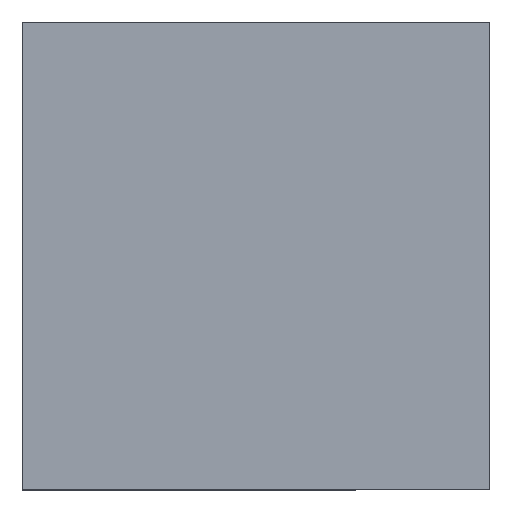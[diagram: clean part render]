
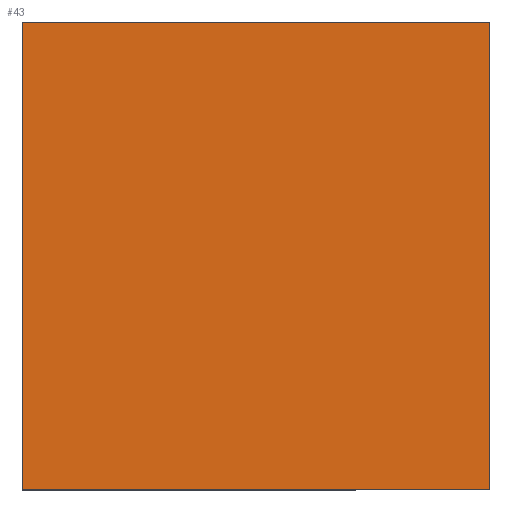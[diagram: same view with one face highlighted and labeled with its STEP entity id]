
A CAD part, top view. The second image highlights one B-rep face of the part: STEP entity #43.
In plain terms, the highlighted planar face has unit normal (0, 0, 1).
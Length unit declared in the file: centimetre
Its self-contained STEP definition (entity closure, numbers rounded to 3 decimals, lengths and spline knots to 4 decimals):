
#1 = VECTOR ( 'NONE', #365, 100. ) ;
#4 = ORIENTED_EDGE ( 'NONE', *, *, #442, .T. ) ;
#20 = DIRECTION ( 'NONE',  ( 1., 0., 0. ) ) ;
#27 = EDGE_CURVE ( 'NONE', #362, #299, #123, .T. ) ;
#43 = ADVANCED_FACE ( 'NONE', ( #262 ), #222, .T. ) ;
#56 = CARTESIAN_POINT ( 'NONE',  ( 0., 0., 1000. ) ) ;
#89 = CARTESIAN_POINT ( 'NONE',  ( 0., 0., 1000. ) ) ;
#100 = VERTEX_POINT ( 'NONE', #89 ) ;
#106 = CARTESIAN_POINT ( 'NONE',  ( 0., 1000., 1000. ) ) ;
#123 = LINE ( 'NONE', #344, #430 ) ;
#140 = VERTEX_POINT ( 'NONE', #285 ) ;
#155 = ORIENTED_EDGE ( 'NONE', *, *, #377, .T. ) ;
#172 = LINE ( 'NONE', #173, #287 ) ;
#173 = CARTESIAN_POINT ( 'NONE',  ( 0., 1000., 1000. ) ) ;
#180 = VECTOR ( 'NONE', #468, 100. ) ;
#222 = PLANE ( 'NONE',  #279 ) ;
#240 = DIRECTION ( 'NONE',  ( -1., 0., 0. ) ) ;
#249 = EDGE_CURVE ( 'NONE', #140, #100, #320, .T. ) ;
#262 = FACE_OUTER_BOUND ( 'NONE', #441, .T. ) ;
#265 = DIRECTION ( 'NONE',  ( 0., 1., 0. ) ) ;
#273 = CARTESIAN_POINT ( 'NONE',  ( 0., 0., 1000. ) ) ;
#279 = AXIS2_PLACEMENT_3D ( 'NONE', #56, #301, #20 ) ;
#285 = CARTESIAN_POINT ( 'NONE',  ( 0., 1000., 1000. ) ) ;
#287 = VECTOR ( 'NONE', #240, 100. ) ;
#299 = VERTEX_POINT ( 'NONE', #470 ) ;
#301 = DIRECTION ( 'NONE',  ( 0., 0., 1. ) ) ;
#313 = LINE ( 'NONE', #273, #180 ) ;
#320 = LINE ( 'NONE', #106, #1 ) ;
#344 = CARTESIAN_POINT ( 'NONE',  ( 1000., 1000., 1000. ) ) ;
#362 = VERTEX_POINT ( 'NONE', #427 ) ;
#365 = DIRECTION ( 'NONE',  ( 0., -1., 0. ) ) ;
#377 = EDGE_CURVE ( 'NONE', #299, #140, #172, .T. ) ;
#398 = ORIENTED_EDGE ( 'NONE', *, *, #27, .T. ) ;
#424 = ORIENTED_EDGE ( 'NONE', *, *, #249, .T. ) ;
#427 = CARTESIAN_POINT ( 'NONE',  ( 1000., 0., 1000. ) ) ;
#430 = VECTOR ( 'NONE', #265, 100. ) ;
#441 = EDGE_LOOP ( 'NONE', ( #424, #4, #398, #155 ) ) ;
#442 = EDGE_CURVE ( 'NONE', #100, #362, #313, .T. ) ;
#468 = DIRECTION ( 'NONE',  ( 1., 0., 0. ) ) ;
#470 = CARTESIAN_POINT ( 'NONE',  ( 1000., 1000., 1000. ) ) ;
